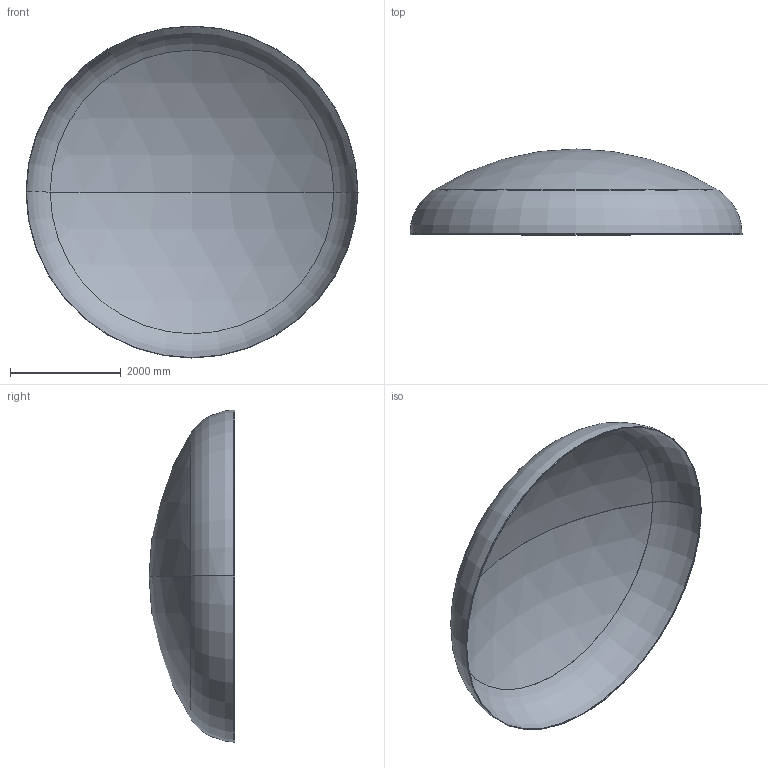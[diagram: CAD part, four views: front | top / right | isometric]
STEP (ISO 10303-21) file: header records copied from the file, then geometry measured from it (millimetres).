
FILE_DESCRIPTION (( 'STEP AP203' ), '1' );
FILE_NAME ('DIN 28013 Korbbogenform_-_Boden DIN 28013 - 6000 x 20 - I - s=6.step', '2016-07-04T10:35:31', ( '' ), ( '' ), 'SwSTEP 2.0', 'SolidWorks 2013', '' );
FILE_SCHEMA (( 'CONFIG_CONTROL_DESIGN' ));
Length unit declared in the file: millimetre
Products named in the file (1): DIN 28013 Korbbogenform_-_Boden DIN 28013 - 6000 x 20 - I - s=6
Bounding box: 6000 x 1549.59 x 6000 mm (x, y, z)
Volume: 236982876.6 mm3; surface area: 79107318.8 mm2
Topology: 1 solids, 1 shells, 13 faces, 24 edges, 14 vertices
Faces by surface type: torus 4, cylinder 4, sphere 4, plane 1
Entity records: 407 total; most frequent: DIRECTION 72, CARTESIAN_POINT 52, ORIENTED_EDGE 48, AXIS2_PLACEMENT_3D 34, EDGE_CURVE 24, CIRCLE 20, VERTEX_POINT 14, EDGE_LOOP 14
